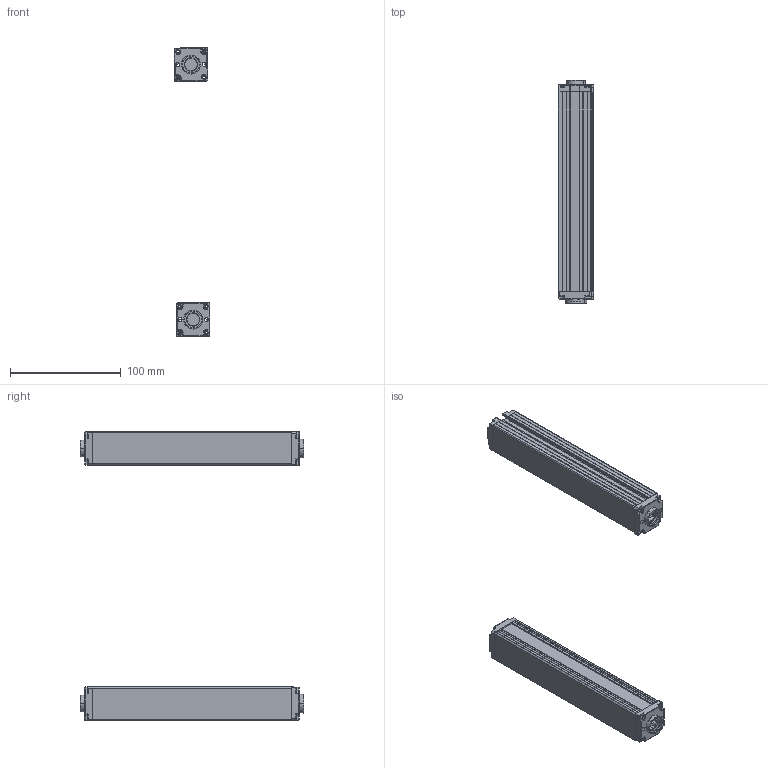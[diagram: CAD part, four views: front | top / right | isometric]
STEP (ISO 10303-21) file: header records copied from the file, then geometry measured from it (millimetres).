
FILE_DESCRIPTION (( 'STEP AP203' ), '1' );
FILE_NAME ('ZDA1610-180.STEP', '2022-08-30T03:34:21', ( 'Windows 蚚誧' ), ( 'Organization' ), 'SwSTEP 2.0', 'SolidWorks 2020', '' );
FILE_SCHEMA (( 'CONFIG_CONTROL_DESIGN' ));
Length unit declared in the file: millimetre
Products named in the file (5): 錨璃1; 錨璃8; 錨璃8 - 萵掛 (2); 錨璃10; ZDA1610-180
Assembly tree (8 placements, depth 2):
  ZDA1610-180
    錨璃1  x2
    錨璃8  x2
    錨璃8 - 萵掛 (2)  x2
    錨璃10  x2
Bounding box: 32.36 x 201.4 x 260.35 mm (x, y, z)
Volume: 123927.6 mm3; surface area: 133922.9 mm2
Topology: 8 solids, 8 shells, 1032 faces, 2690 edges, 1668 vertices
Faces by surface type: plane 464, cylinder 310, cone 120, bspline 58, torus 48, sphere 32
Entity records: 17901 total; most frequent: CARTESIAN_POINT 4731, ORIENTED_EDGE 2666, DIRECTION 2616, EDGE_CURVE 1333, AXIS2_PLACEMENT_3D 894, VERTEX_POINT 834, VECTOR 828, LINE 828
